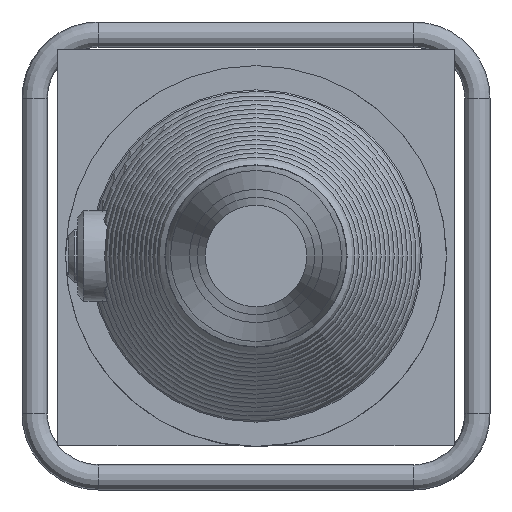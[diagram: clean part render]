
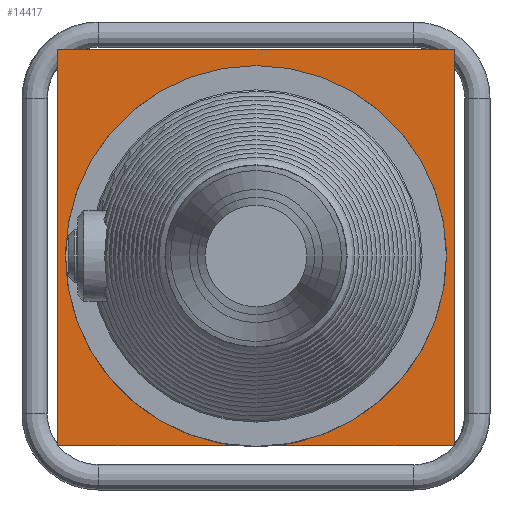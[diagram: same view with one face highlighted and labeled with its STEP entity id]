
A CAD part, left-side view. The second image highlights one B-rep face of the part: STEP entity #14417.
In plain terms, the highlighted planar face has unit normal (-1, 0, 0).
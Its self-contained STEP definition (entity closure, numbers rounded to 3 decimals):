
#1485=PLANE('',#15128);
#2372=LINE('',#34306,#3259);
#2373=LINE('',#34308,#3260);
#2374=LINE('',#34310,#3261);
#2375=LINE('',#34312,#3262);
#2376=LINE('',#34313,#3263);
#3259=VECTOR('',#17408,117.208);
#3260=VECTOR('',#17409,250.);
#3261=VECTOR('',#17410,250.);
#3262=VECTOR('',#17411,250.);
#3263=VECTOR('',#17412,117.208);
#4262=FACE_OUTER_BOUND('',#5200,.T.);
#5200=EDGE_LOOP('',(#13075,#13076,#13077,#13078,#13079,#13080));
#5651=CIRCLE('',#15103,120.);
#7061=VERTEX_POINT('',#34275);
#7062=VERTEX_POINT('',#34276);
#7064=VERTEX_POINT('',#34305);
#7065=VERTEX_POINT('',#34307);
#7066=VERTEX_POINT('',#34309);
#7067=VERTEX_POINT('',#34311);
#9094=EDGE_CURVE('',#7061,#7062,#5651,.T.);
#9098=EDGE_CURVE('',#7062,#7064,#2372,.T.);
#9099=EDGE_CURVE('',#7064,#7065,#2373,.T.);
#9100=EDGE_CURVE('',#7065,#7066,#2374,.T.);
#9101=EDGE_CURVE('',#7066,#7067,#2375,.T.);
#9102=EDGE_CURVE('',#7067,#7061,#2376,.T.);
#13075=ORIENTED_EDGE('',*,*,#9094,.T.);
#13076=ORIENTED_EDGE('',*,*,#9098,.T.);
#13077=ORIENTED_EDGE('',*,*,#9099,.T.);
#13078=ORIENTED_EDGE('',*,*,#9100,.T.);
#13079=ORIENTED_EDGE('',*,*,#9101,.T.);
#13080=ORIENTED_EDGE('',*,*,#9102,.T.);
#14417=ADVANCED_FACE('',(#4262),#1485,.F.);
#15103=AXIS2_PLACEMENT_3D('',#34277,#17355,#17356);
#15128=AXIS2_PLACEMENT_3D('',#34304,#17406,#17407);
#17355=DIRECTION('center_axis',(1.,0.,0.));
#17356=DIRECTION('ref_axis',(0.,1.,0.));
#17406=DIRECTION('center_axis',(1.,0.,0.));
#17407=DIRECTION('ref_axis',(0.,0.,1.));
#17408=DIRECTION('',(0.,-1.,0.));
#17409=DIRECTION('',(0.,0.,1.));
#17410=DIRECTION('',(0.,1.,0.));
#17411=DIRECTION('',(0.,0.,-1.));
#17412=DIRECTION('',(0.,-1.,0.));
#34275=CARTESIAN_POINT('',(-112.151,7.792,-119.747));
#34276=CARTESIAN_POINT('',(-112.151,-7.792,-119.747));
#34277=CARTESIAN_POINT('Origin',(-112.151,0.,
0.));
#34304=CARTESIAN_POINT('Origin',(-112.151,0.,
5.253));
#34305=CARTESIAN_POINT('',(-112.151,-125.,-119.747));
#34306=CARTESIAN_POINT('',(-112.151,125.,-119.747));
#34307=CARTESIAN_POINT('',(-112.151,-125.,130.253));
#34308=CARTESIAN_POINT('',(-112.151,-125.,-119.747));
#34309=CARTESIAN_POINT('',(-112.151,125.,130.253));
#34310=CARTESIAN_POINT('',(-112.151,-125.,130.253));
#34311=CARTESIAN_POINT('',(-112.151,125.,-119.747));
#34312=CARTESIAN_POINT('',(-112.151,125.,130.253));
#34313=CARTESIAN_POINT('',(-112.151,125.,-119.747));
